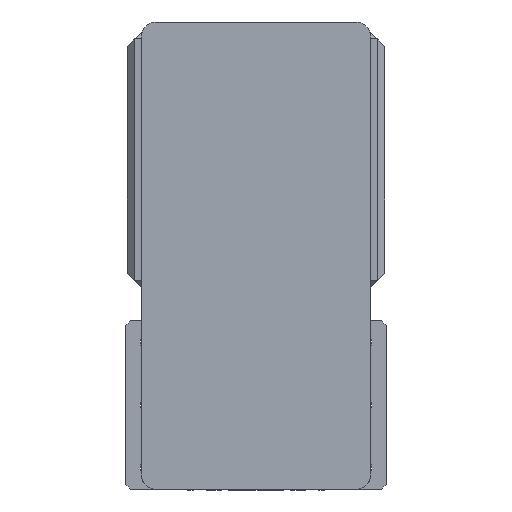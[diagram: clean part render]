
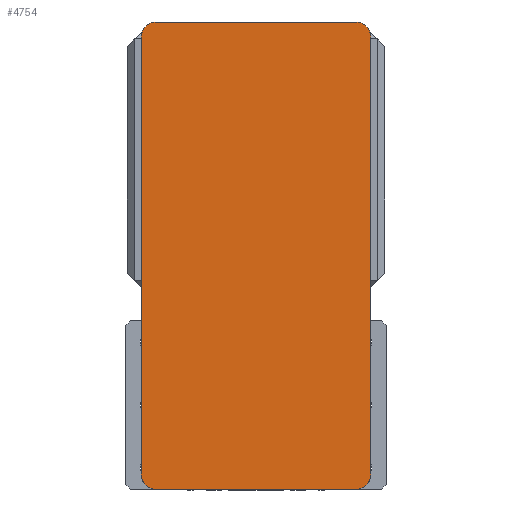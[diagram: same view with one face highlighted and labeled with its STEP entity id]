
A CAD part, left-side view. The second image highlights one B-rep face of the part: STEP entity #4754.
In plain terms, the highlighted planar face has unit normal (-1, 0, 0) as drawn and (0, 0, 1) by its records, which use the part's own axes.
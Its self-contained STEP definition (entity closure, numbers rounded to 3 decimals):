
#72 = LINE ( 'NONE', #9127, #2546 ) ;
#146 = AXIS2_PLACEMENT_3D ( 'NONE', #5300, #11268, #6161 ) ;
#349 = CIRCLE ( 'NONE', #10701, 10. ) ;
#530 = VERTEX_POINT ( 'NONE', #2944 ) ;
#1797 = CARTESIAN_POINT ( 'NONE',  ( 65., 142.5, 105. ) ) ;
#1841 = CARTESIAN_POINT ( 'NONE',  ( -65., 142.5, 105. ) ) ;
#2156 = DIRECTION ( 'NONE',  ( 0., 1., 0. ) ) ;
#2406 = ORIENTED_EDGE ( 'NONE', *, *, #8105, .T. ) ;
#2546 = VECTOR ( 'NONE', #3956, 1000. ) ;
#2672 = VERTEX_POINT ( 'NONE', #8343 ) ;
#2693 = PLANE ( 'NONE',  #3962 ) ;
#2728 = CARTESIAN_POINT ( 'NONE',  ( -65., -152.5, 105. ) ) ;
#2729 = DIRECTION ( 'NONE',  ( 1., 0., 0. ) ) ;
#2766 = DIRECTION ( 'NONE',  ( 1., 0., 0. ) ) ;
#2800 = CARTESIAN_POINT ( 'NONE',  ( -65., -142.5, 105. ) ) ;
#2849 = VERTEX_POINT ( 'NONE', #7409 ) ;
#2855 = ORIENTED_EDGE ( 'NONE', *, *, #8170, .T. ) ;
#2944 = CARTESIAN_POINT ( 'NONE',  ( -65., 152.5, 105. ) ) ;
#3341 = DIRECTION ( 'NONE',  ( -1., 0., 0. ) ) ;
#3344 = VERTEX_POINT ( 'NONE', #2728 ) ;
#3536 = ORIENTED_EDGE ( 'NONE', *, *, #8373, .T. ) ;
#3605 = DIRECTION ( 'NONE',  ( 0., 0., 1. ) ) ;
#3714 = DIRECTION ( 'NONE',  ( 1., 0., 0. ) ) ;
#3952 = CIRCLE ( 'NONE', #146, 10. ) ;
#3956 = DIRECTION ( 'NONE',  ( 0., -1., 0. ) ) ;
#3962 = AXIS2_PLACEMENT_3D ( 'NONE', #5372, #3605, #9651 ) ;
#4194 = CARTESIAN_POINT ( 'NONE',  ( 75., 142.5, 105. ) ) ;
#4253 = CARTESIAN_POINT ( 'NONE',  ( -75., 152.5, 105. ) ) ;
#4524 = VECTOR ( 'NONE', #5220, 1000. ) ;
#4754 = ADVANCED_FACE ( 'NONE', ( #4978 ), #2693, .T. ) ;
#4818 = ORIENTED_EDGE ( 'NONE', *, *, #7852, .T. ) ;
#4978 = FACE_OUTER_BOUND ( 'NONE', #7044, .T. ) ;
#5116 = ORIENTED_EDGE ( 'NONE', *, *, #8337, .T. ) ;
#5220 = DIRECTION ( 'NONE',  ( 1., 0., 0. ) ) ;
#5229 = CIRCLE ( 'NONE', #10780, 10. ) ;
#5300 = CARTESIAN_POINT ( 'NONE',  ( 65., -142.5, 105. ) ) ;
#5301 = ORIENTED_EDGE ( 'NONE', *, *, #8293, .T. ) ;
#5372 = CARTESIAN_POINT ( 'NONE',  ( 0., 0., 105. ) ) ;
#6161 = DIRECTION ( 'NONE',  ( 1., 0., 0. ) ) ;
#6464 = VERTEX_POINT ( 'NONE', #7946 ) ;
#6822 = LINE ( 'NONE', #7744, #4524 ) ;
#7044 = EDGE_LOOP ( 'NONE', ( #2406, #2855, #10556, #5301, #7415, #5116, #4818, #3536 ) ) ;
#7334 = EDGE_CURVE ( 'NONE', #9726, #9232, #8305, .T. ) ;
#7409 = CARTESIAN_POINT ( 'NONE',  ( 65., -152.5, 105. ) ) ;
#7415 = ORIENTED_EDGE ( 'NONE', *, *, #7554, .T. ) ;
#7554 = EDGE_CURVE ( 'NONE', #11073, #530, #8429, .T. ) ;
#7744 = CARTESIAN_POINT ( 'NONE',  ( -75., -152.5, 105. ) ) ;
#7852 = EDGE_CURVE ( 'NONE', #6464, #2672, #72, .T. ) ;
#7946 = CARTESIAN_POINT ( 'NONE',  ( -75., 142.5, 105. ) ) ;
#7965 = DIRECTION ( 'NONE',  ( 0., 0., 1. ) ) ;
#7990 = DIRECTION ( 'NONE',  ( 0., 0., 1. ) ) ;
#8105 = EDGE_CURVE ( 'NONE', #3344, #2849, #6822, .T. ) ;
#8170 = EDGE_CURVE ( 'NONE', #2849, #9726, #3952, .T. ) ;
#8293 = EDGE_CURVE ( 'NONE', #9232, #11073, #9744, .T. ) ;
#8305 = LINE ( 'NONE', #9136, #10313 ) ;
#8337 = EDGE_CURVE ( 'NONE', #530, #6464, #5229, .T. ) ;
#8343 = CARTESIAN_POINT ( 'NONE',  ( -75., -142.5, 105. ) ) ;
#8359 = CARTESIAN_POINT ( 'NONE',  ( 65., 152.5, 105. ) ) ;
#8373 = EDGE_CURVE ( 'NONE', #2672, #3344, #349, .T. ) ;
#8383 = CARTESIAN_POINT ( 'NONE',  ( 75., -142.5, 105. ) ) ;
#8429 = LINE ( 'NONE', #4253, #10445 ) ;
#8900 = DIRECTION ( 'NONE',  ( 0., 0., 1. ) ) ;
#9127 = CARTESIAN_POINT ( 'NONE',  ( -75., 152.5, 105. ) ) ;
#9136 = CARTESIAN_POINT ( 'NONE',  ( 75., 152.5, 105. ) ) ;
#9232 = VERTEX_POINT ( 'NONE', #4194 ) ;
#9651 = DIRECTION ( 'NONE',  ( 1., 0., 0. ) ) ;
#9726 = VERTEX_POINT ( 'NONE', #8383 ) ;
#9744 = CIRCLE ( 'NONE', #10928, 10. ) ;
#10313 = VECTOR ( 'NONE', #2156, 1000. ) ;
#10445 = VECTOR ( 'NONE', #3341, 1000. ) ;
#10556 = ORIENTED_EDGE ( 'NONE', *, *, #7334, .T. ) ;
#10701 = AXIS2_PLACEMENT_3D ( 'NONE', #2800, #8900, #3714 ) ;
#10780 = AXIS2_PLACEMENT_3D ( 'NONE', #1841, #7990, #2766 ) ;
#10928 = AXIS2_PLACEMENT_3D ( 'NONE', #1797, #7965, #2729 ) ;
#11073 = VERTEX_POINT ( 'NONE', #8359 ) ;
#11268 = DIRECTION ( 'NONE',  ( 0., 0., 1. ) ) ;
